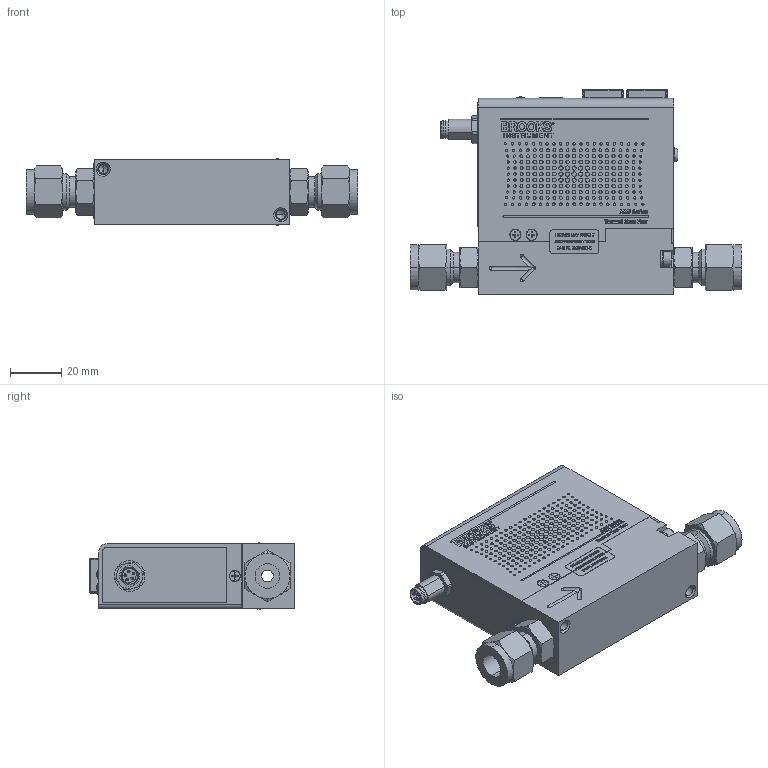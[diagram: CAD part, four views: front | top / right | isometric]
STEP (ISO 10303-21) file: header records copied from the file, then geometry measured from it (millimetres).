
FILE_DESCRIPTION (( 'STEP AP203' ), '1' );
FILE_NAME ('AMF-C-7-S-1D-A_Assy.STEP', '2026-05-21T17:00:52', ( '' ), ( '' ), 'SwSTEP 2.0', 'SolidWorks 2023', '' );
FILE_SCHEMA (( 'CONFIG_CONTROL_DESIGN' ));
Length unit declared in the file: millimetre
Products named in the file (1): AMF-C-7-S-1D-A_Assy
Bounding box: 129.03 x 79.61 x 25.82 mm (x, y, z)
Volume: 33765.5 mm3; surface area: 48831.2 mm2
Topology: 30 solids, 33 shells, 3948 faces, 9974 edges, 6476 vertices
Faces by surface type: plane 2013, bspline 1239, cylinder 461, cone 189, torus 29, sphere 17
Entity records: 144435 total; most frequent: CARTESIAN_POINT 58425, ORIENTED_EDGE 19856, DIRECTION 13386, EDGE_CURVE 9928, VERTEX_POINT 6460, VECTOR 6076, LINE 6076, EDGE_LOOP 4426
